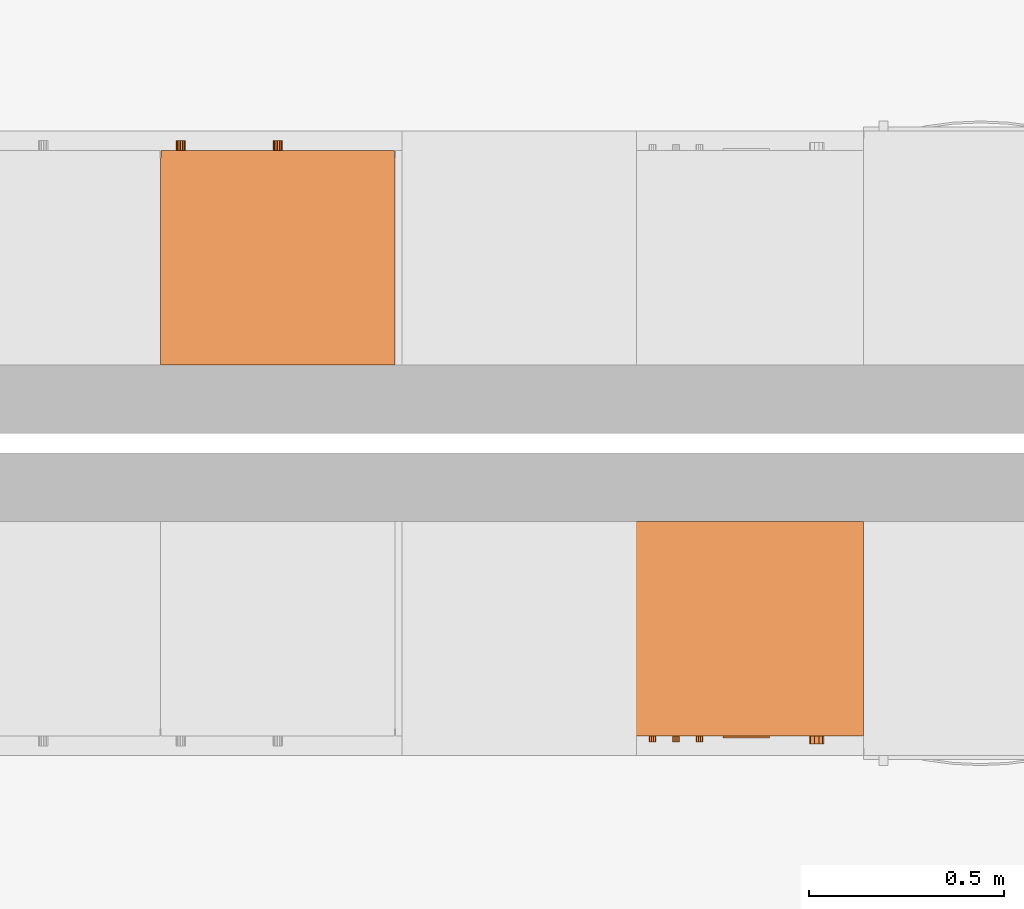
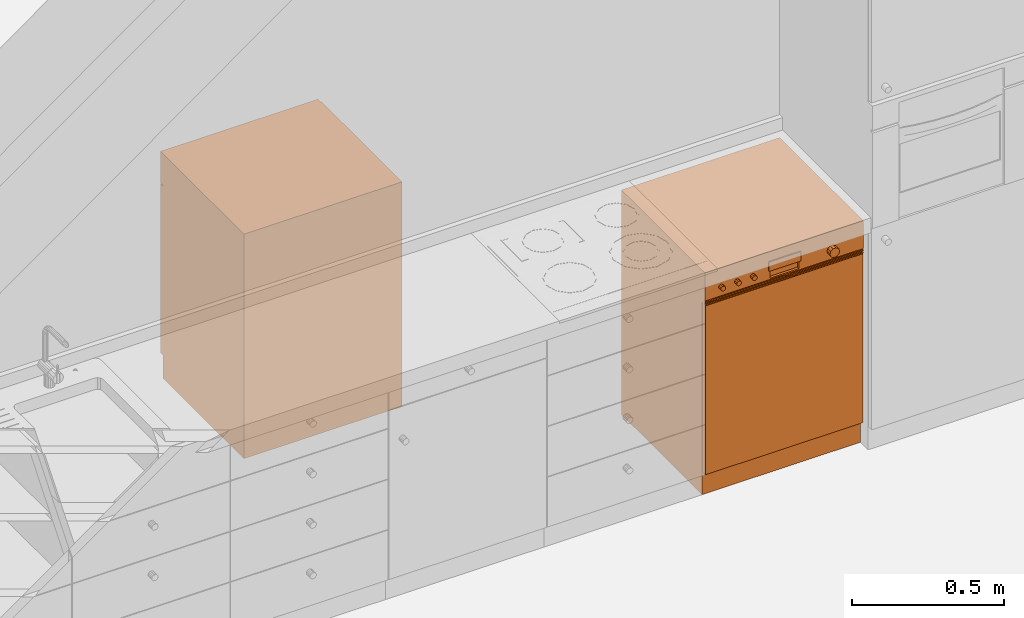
# One storey, part 20 of 28: 2 proxies.
"""IFC4 building model written with IfcOpenShell, lengths in metres."""

import ifcopenshell
import ifcopenshell.guid

model = None  # the IFC model being written
_history = None  # IfcOwnerHistory: only IFC2X3 demands one
_inside = {}  # id of a spatial element -> (the spatial element, [elements in it])
_under = {}  # id of a project, library or spatial element -> (it, [spatial elements below it])
_declared = {}  # id of a project -> (the project, [libraries it declares])
_typed = {}  # id of a type object -> (the type object, [elements of that type])
_made_of = {}  # id of a material, layer set ... -> (it, [elements and type objects made of it])


def new_model(schema):
    """Start an empty IFC model of exactly this schema.

    Asked for "IFC4X3", IfcOpenShell would pick the latest addendum, in which some entities
    have other attributes; the version numbers below select the first issue.
    IFC2X3 requires an IfcOwnerHistory on every rooted entity: one is made here for all.
    """
    global model, _history
    if schema == "IFC4X3":
        model = ifcopenshell.file(schema_version=(4, 3, 0, 0))
    else:
        model = ifcopenshell.file(schema=schema)
    _inside.clear()
    _under.clear()
    _declared.clear()
    _typed.clear()
    _made_of.clear()
    _history = None
    if model.schema == "IFC2X3":
        org = make("IfcOrganization", Name="unknown")
        user = make(
            "IfcPersonAndOrganization",
            ThePerson=make("IfcPerson", FamilyName="unknown"),
            TheOrganization=org,
        )
        app = make(
            "IfcApplication",
            ApplicationDeveloper=org,
            Version="unknown",
            ApplicationFullName="unknown",
            ApplicationIdentifier="unknown",
        )
        _history = make(
            "IfcOwnerHistory",
            OwningUser=user,
            OwningApplication=app,
            ChangeAction="ADDED",
            CreationDate=0,
        )
    return model


def make(cls, **values):
    """One entity of the class cls with the attributes given. An attribute that is None is left unset."""
    return model.create_entity(
        cls, **{name: value for name, value in values.items() if value is not None}
    )


def entity(cls, *values):
    """Any entity or typed value of the class cls, its attributes in the order of the schema. None: left unset."""
    e = model.create_entity(cls)
    for i, value in enumerate(values):
        if value is not None:
            e[i] = value
    return e


def rooted(cls, **values):
    """An entity with a GlobalId (a new one), such as an element, a storey or a relation."""
    return make(cls, GlobalId=ifcopenshell.guid.new(), OwnerHistory=_history, **values)


def si_unit(unit_type, name, prefix=None):
    """IfcSIUnit, for example si_unit("LENGTHUNIT", "METRE", prefix="MILLI")."""
    return make("IfcSIUnit", UnitType=unit_type, Prefix=prefix, Name=name)


def converted_unit(unit_type, name, factor, base, dimensions=None, offset=None):
    """IfcConversionBasedUnit, such as the inch: factor (a typed value) times the base unit."""
    return make(
        "IfcConversionBasedUnit"
        if offset is None
        else "IfcConversionBasedUnitWithOffset",
        ConversionOffset=offset,
        Dimensions=None
        if dimensions is None
        else entity("IfcDimensionalExponents", *dimensions),
        UnitType=unit_type,
        Name=name,
        ConversionFactor=make(
            "IfcMeasureWithUnit", ValueComponent=factor, UnitComponent=base
        ),
    )


def derived_unit(unit_type, elements):
    """IfcDerivedUnit: a product of units, each with its exponent."""
    return make(
        "IfcDerivedUnit",
        Elements=[
            make("IfcDerivedUnitElement", Unit=unit, Exponent=power)
            for unit, power in elements
        ],
        UnitType=unit_type,
    )


def assignment(units):
    """IfcUnitAssignment: the units of a project."""
    return None if units is None else make("IfcUnitAssignment", Units=units)


def point(xyz):
    """IfcCartesianPoint."""
    return None if xyz is None else make("IfcCartesianPoint", Coordinates=xyz)


def direction(xyz):
    """IfcDirection."""
    return None if xyz is None else make("IfcDirection", DirectionRatios=xyz)


def frame(location, z_axis=None, x_axis=None):
    """IfcAxis2Placement3D, a coordinate frame: its origin and axes. An axis left out is left unset."""
    return make(
        "IfcAxis2Placement3D",
        Location=point(location),
        Axis=direction(z_axis),
        RefDirection=direction(x_axis),
    )


def origin_with_axes():
    """The frame at (0, 0, 0) with the z axis (0, 0, 1) and the x axis (1, 0, 0) written out."""
    return frame((0.0, 0.0, 0.0), z_axis=(0.0, 0.0, 1.0), x_axis=(1.0, 0.0, 0.0))


def place(relative_to, where):
    """IfcLocalPlacement: puts the frame where relative to a parent placement (None: the world)."""
    return make(
        "IfcLocalPlacement", PlacementRelTo=relative_to, RelativePlacement=where
    )


def context(
    kind, dimensions, precision=None, world=None, true_north=None, identifier=None
):
    """IfcGeometricRepresentationContext, for example the 3D "Model" context."""
    return make(
        "IfcGeometricRepresentationContext",
        ContextIdentifier=identifier,
        ContextType=kind,
        CoordinateSpaceDimension=dimensions,
        Precision=precision,
        WorldCoordinateSystem=world,
        TrueNorth=true_north,
    )


def subcontext(parent, identifier, kind, view, scale=None):
    """IfcGeometricRepresentationSubContext, for example "Body" below "Model"."""
    return make(
        "IfcGeometricRepresentationSubContext",
        ContextIdentifier=identifier,
        ContextType=kind,
        ParentContext=parent,
        TargetScale=scale,
        TargetView=view,
    )


def project(units=None, contexts=None):
    """IfcProject with its units and contexts."""
    return rooted(
        "IfcProject",
        Name="project",
        RepresentationContexts=contexts,
        UnitsInContext=assignment(units),
    )


def spatial(cls, under=None, at=None, **own):
    """A site, building, storey or space (cls), placed at a placement, below another one or the project."""
    s = rooted(cls, ObjectPlacement=at, **own)
    if under is not None:
        _under.setdefault(under.id(), (under, []))[1].append(s)
    return s


def point_list(points):
    """IfcCartesianPointList2D or 3D."""
    cls = (
        "IfcCartesianPointList2D" if len(points[0]) == 2 else "IfcCartesianPointList3D"
    )
    return make(cls, CoordList=points)


def triangles(points, corners, closed=None, point_numbers=None):
    """IfcTriangulatedFaceSet: each triangle names its three corners, points numbered from 1."""
    return make(
        "IfcTriangulatedFaceSet",
        Coordinates=point_list(points),
        Closed=closed,
        CoordIndex=corners,
        PnIndex=point_numbers,
    )


def shape(context_of_items, identifier, shape_type, items):
    """IfcShapeRepresentation: the items that make up one representation, for example the "Body"."""
    return make(
        "IfcShapeRepresentation",
        ContextOfItems=context_of_items,
        RepresentationIdentifier=identifier,
        RepresentationType=shape_type,
        Items=items,
    )


def made_of(thing, what):
    """Note that an element or type object is made of a material, layer set ...; save() writes the relation."""
    if what is not None:
        _made_of.setdefault(what.id(), (what, []))[1].append(thing)
    return thing


def type_object(cls, material=None, **own):
    """A type object (cls), such as IfcWallType, which elements share."""
    return made_of(rooted(cls, **own), material)


def element(
    cls,
    number,
    at=None,
    inside=None,
    cuts=None,
    type_object=None,
    material=None,
    context=None,
    identifier="Body",
    shape_type=None,
    held_by="IfcProductDefinitionShape",
    body=None,
    shapes=None,
    **own,
):
    """One element of the class cls, such as IfcWall. Its Tag is "e" and its number.

    at: its placement. inside: the storey or other place that contains it. cuts: it is an
    opening in that element (IfcRelVoidsElement). A single representation is given by context,
    identifier, shape_type and body (its items); several are given by shapes. held_by: the class
    of the entity that holds the representations. save() writes the other relations.
    """
    e = rooted(cls, Tag="e%d" % number, ObjectPlacement=at, **own)
    if body is not None:
        shapes = [shape(context, identifier, shape_type, body)]
    if shapes is not None:
        e.Representation = make(held_by, Representations=shapes)
    if inside is not None:
        _inside.setdefault(inside.id(), (inside, []))[1].append(e)
    if cuts is not None:
        rooted(
            "IfcRelVoidsElement", RelatingBuildingElement=cuts, RelatedOpeningElement=e
        )
    if type_object is not None:
        _typed.setdefault(type_object.id(), (type_object, []))[1].append(e)
    return made_of(e, material)


def aggregate(whole, parts):
    """IfcRelAggregates: a whole, such as a stair, and the parts it consists of."""
    return rooted("IfcRelAggregates", RelatingObject=whole, RelatedObjects=parts)


def save(model, path):
    """Write the relations noted so far, then the file.

    IfcRelAggregates (storeys below a building ...), IfcRelContainedInSpatialStructure (elements
    in a storey), IfcRelDefinesByType, IfcRelAssociatesMaterial and IfcRelDeclares: one each for
    every whole, place, type object, material and project.
    """
    for whole, parts in _under.values():
        aggregate(whole, parts)
    for where, things in _inside.values():
        rooted(
            "IfcRelContainedInSpatialStructure",
            RelatedElements=things,
            RelatingStructure=where,
        )
    for kind, things in _typed.values():
        rooted("IfcRelDefinesByType", RelatedObjects=things, RelatingType=kind)
    for what, things in _made_of.values():
        rooted("IfcRelAssociatesMaterial", RelatedObjects=things, RelatingMaterial=what)
    for by, libraries in _declared.values():
        rooted("IfcRelDeclares", RelatingContext=by, RelatedDefinitions=libraries)
    model.write(path)


model = new_model("IFC4")

# Units and contexts
model_context = context("Model", 3, precision=1e-05, world=origin_with_axes(), true_north=direction((-0.526213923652, 0.850352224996)))
body_context = subcontext(model_context, "Body", "Model", "MODEL_VIEW")
ifc_project = project(units=[si_unit("LENGTHUNIT", "METRE"), si_unit("AREAUNIT", "SQUARE_METRE"), si_unit("VOLUMEUNIT", "CUBIC_METRE"), converted_unit("PLANEANGLEUNIT", "DEGREE", entity("IfcPlaneAngleMeasure", 0.0174532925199), si_unit("PLANEANGLEUNIT", "RADIAN"), dimensions=[0, 0, 0, 0, 0, 0, 0]), si_unit("SOLIDANGLEUNIT", "STERADIAN"), converted_unit("TIMEUNIT", "Year", entity("IfcTimeMeasure", 31556926.0), si_unit("TIMEUNIT", "SECOND"), dimensions=[0, 0, 1, 0, 0, 0, 0]), si_unit("MASSUNIT", "GRAM", prefix="KILO"), si_unit("THERMODYNAMICTEMPERATUREUNIT", "DEGREE_CELSIUS"), si_unit("LUMINOUSINTENSITYUNIT", "LUMEN"), si_unit("ENERGYUNIT", "JOULE", prefix="MEGA"), derived_unit("THERMALCONDUCTANCEUNIT", [(si_unit("POWERUNIT", "WATT"), 1), (si_unit("LENGTHUNIT", "METRE"), -1), (si_unit("THERMODYNAMICTEMPERATUREUNIT", "KELVIN"), -1)]), derived_unit("SPECIFICHEATCAPACITYUNIT", [(si_unit("ENERGYUNIT", "JOULE"), 1), (si_unit("MASSUNIT", "GRAM", prefix="KILO"), -1), (si_unit("THERMODYNAMICTEMPERATUREUNIT", "KELVIN"), -1)]), derived_unit("MASSDENSITYUNIT", [(si_unit("MASSUNIT", "GRAM", prefix="KILO"), 1), (si_unit("VOLUMEUNIT", "CUBIC_METRE"), -1)])], contexts=[model_context])

# Site, building, storey, space
site_placement = place(None, origin_with_axes())
site = spatial("IfcSite", under=ifc_project, at=site_placement, Name="Gelände", CompositionType="ELEMENT")
building_placement = place(site_placement, origin_with_axes())
building = spatial("IfcBuilding", under=site, at=building_placement, Name="Haus vom Nikolaus", CompositionType="ELEMENT")
storey_placement = place(building_placement, origin_with_axes())
storey = spatial("IfcBuildingStorey", under=building, at=storey_placement, Name="EG", CompositionType="ELEMENT", Elevation=0.0)
space_placement = place(storey_placement, frame((-3.09538684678, 5.36483190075, 0.0), z_axis=(0.0, 0.0, 1.0), x_axis=(1.0, 0.0, 0.0)))
space = spatial("IfcSpace", under=storey, at=space_placement, Name="EG", CompositionType="ELEMENT")

# Proxies
building_element_proxy_type_1 = type_object("IfcBuildingElementProxyType", Name="Unterschrank Einzeltür mit Spüle 22", PredefinedType="NOTDEFINED")
proxy_1_placement = place(space_placement, frame((11.7603844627, 2.87500017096, 0.2), z_axis=(0.0, 0.0, 1.0), x_axis=(-1.0, 0.0, 0.0)))
element("IfcBuildingElementProxy", 1, at=proxy_1_placement, inside=space, type_object=building_element_proxy_type_1, Name="Küche-004", PredefinedType="NOTDEFINED", context=body_context, shape_type="Tessellation", body=[
    triangles([(0.58, 0.07, 0.78), (0.02, 0.07, 0.76), (0.58, 0.07, 0.76), (0.02, 0.07, 0.78), (0.58, 0.58, 0.76), (0.02, 0.58, 0.76), (0.58, 0.58, 0.78), (0.02, 0.58, 0.78)], [[1, 2, 3], [1, 4, 2], [5, 2, 6], [5, 3, 2], [7, 3, 5], [7, 1, 3], [7, 4, 1], [7, 8, 4], [4, 6, 2], [4, 8, 6], [8, 5, 6], [8, 7, 5]], closed=True),
    triangles([(0.6, 0.07, 0.09), (0.0, 0.07, 0.0), (0.6, 0.07, 0.0), (0.0, 0.07, 0.09), (0.6, 0.6, 0.0), (0.0, 0.6, 0.0), (0.6, 0.6, 0.09), (0.0, 0.6, 0.09)], [[1, 2, 3], [1, 4, 2], [5, 2, 6], [5, 3, 2], [7, 3, 5], [7, 1, 3], [7, 4, 1], [7, 8, 4], [4, 6, 2], [4, 8, 6], [8, 5, 6], [8, 7, 5]], closed=True),
    triangles([(0.02, 0.07, 0.9), (0.0, 0.07, 0.88), (0.02, 0.07, 0.88), (0.0, 0.07, 0.9), (0.02, 0.6, 0.88), (0.58, 0.07, 0.88), (0.58, 0.6, 0.88), (0.0, 0.6, 0.88), (0.6, 0.07, 0.88), (0.6, 0.6, 0.88), (0.58, 0.07, 0.9), (0.0, 0.6, 0.9), (0.02, 0.6, 0.9), (0.58, 0.6, 0.9), (0.6, 0.6, 0.9), (0.6, 0.07, 0.9)], [[1, 2, 3], [1, 4, 2], [3, 2, 5], [6, 5, 7], [5, 2, 8], [9, 7, 10], [6, 7, 9], [3, 5, 6], [11, 3, 6], [11, 1, 3], [12, 4, 13], [14, 11, 15], [11, 14, 1], [15, 11, 16], [1, 13, 4], [13, 1, 14], [4, 8, 2], [4, 12, 8], [12, 5, 8], [12, 13, 5], [13, 7, 5], [13, 14, 7], [14, 10, 7], [14, 15, 10], [15, 9, 10], [15, 16, 9], [16, 6, 9], [16, 11, 6]], closed=True),
    triangles([(0.02, 0.07, 0.11), (0.0, 0.07, 0.09), (0.02, 0.07, 0.09), (0.0, 0.07, 0.11), (0.02, 0.6, 0.09), (0.58, 0.07, 0.09), (0.58, 0.6, 0.09), (0.0, 0.6, 0.09), (0.6, 0.07, 0.09), (0.6, 0.6, 0.09), (0.58, 0.07, 0.11), (0.0, 0.6, 0.11), (0.02, 0.6, 0.11), (0.58, 0.6, 0.11), (0.6, 0.6, 0.11), (0.6, 0.07, 0.11)], [[1, 2, 3], [1, 4, 2], [3, 2, 5], [6, 5, 7], [5, 2, 8], [9, 7, 10], [6, 7, 9], [3, 5, 6], [11, 3, 6], [11, 1, 3], [12, 4, 13], [14, 11, 15], [11, 14, 1], [15, 11, 16], [1, 13, 4], [13, 1, 14], [4, 8, 2], [4, 12, 8], [12, 5, 8], [12, 13, 5], [13, 7, 5], [13, 14, 7], [14, 10, 7], [14, 15, 10], [15, 9, 10], [15, 16, 9], [16, 6, 9], [16, 11, 6]], closed=True),
    triangles([(0.02, 0.07, 0.88), (0.0, 0.07, 0.11), (0.02, 0.07, 0.11), (0.0, 0.07, 0.88), (0.02, 0.58, 0.11), (0.58, 0.58, 0.11), (0.6, 0.07, 0.11), (0.58, 0.07, 0.11), (0.0, 0.6, 0.11), (0.6, 0.6, 0.11), (0.02, 0.58, 0.88), (0.0, 0.6, 0.88), (0.6, 0.6, 0.88), (0.58, 0.58, 0.88), (0.6, 0.07, 0.88), (0.58, 0.07, 0.88)], [[1, 2, 3], [1, 4, 2], [3, 2, 5], [6, 7, 8], [6, 9, 10], [7, 6, 10], [5, 2, 9], [6, 5, 9], [11, 3, 5], [11, 1, 3], [12, 4, 11], [13, 12, 11], [11, 4, 1], [13, 11, 14], [15, 13, 14], [15, 14, 16], [4, 9, 2], [4, 12, 9], [12, 10, 9], [12, 13, 10], [13, 7, 10], [13, 15, 7], [15, 8, 7], [15, 16, 8], [16, 6, 8], [16, 14, 6], [14, 5, 6], [14, 11, 5]], closed=True),
    triangles([(0.58, 0.58, 0.43), (0.58, 0.07, 0.41), (0.58, 0.58, 0.41), (0.58, 0.07, 0.43), (0.02, 0.58, 0.41), (0.02, 0.07, 0.41), (0.02, 0.58, 0.43), (0.02, 0.07, 0.43)], [[1, 2, 3], [1, 4, 2], [5, 2, 6], [5, 3, 2], [7, 3, 5], [7, 1, 3], [7, 4, 1], [7, 8, 4], [4, 6, 2], [4, 8, 6], [8, 5, 6], [8, 7, 5]], closed=True),
    triangles([(0.5985, 0.05, 0.7715), (0.0015, 0.07, 0.7715), (0.5985, 0.07, 0.7715), (0.0015, 0.05, 0.7715), (0.5985, 0.07, 0.8985), (0.0015, 0.07, 0.8985), (0.5985, 0.05, 0.8985), (0.0015, 0.05, 0.8985)], [[1, 2, 3], [1, 4, 2], [5, 2, 6], [5, 3, 2], [7, 3, 5], [7, 1, 3], [7, 4, 1], [7, 8, 4], [4, 6, 2], [4, 8, 6], [8, 5, 6], [8, 7, 5]], closed=True),
    triangles([(0.288, 0.05, 0.835), (0.304592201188, 0.05, 0.84608655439), (0.295407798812, 0.05, 0.82391344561), (0.291514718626, 0.05, 0.826514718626), (0.28891344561, 0.05, 0.830407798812), (0.291514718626, 0.05, 0.843485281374), (0.28891344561, 0.05, 0.839592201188), (0.295407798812, 0.05, 0.84608655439), (0.31108655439, 0.05, 0.839592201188), (0.308485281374, 0.05, 0.843485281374), (0.3, 0.05, 0.847), (0.31108655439, 0.05, 0.830407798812), (0.312, 0.05, 0.835), (0.304592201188, 0.05, 0.82391344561), (0.308485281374, 0.05, 0.826514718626), (0.3, 0.05, 0.823), (0.295407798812, 0.025, 0.82391344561), (0.291514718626, 0.025, 0.826514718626), (0.28891344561, 0.025, 0.830407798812), (0.288, 0.025, 0.835), (0.28891344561, 0.025, 0.839592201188), (0.291514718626, 0.025, 0.843485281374), (0.295407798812, 0.025, 0.84608655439), (0.3, 0.025, 0.847), (0.304592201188, 0.025, 0.84608655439), (0.308485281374, 0.025, 0.843485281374), (0.31108655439, 0.025, 0.839592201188), (0.312, 0.025, 0.835), (0.31108655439, 0.025, 0.830407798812), (0.308485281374, 0.025, 0.826514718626), (0.304592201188, 0.025, 0.82391344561), (0.3, 0.025, 0.823)], [[1, 2, 3], [4, 1, 3], [1, 4, 5], [6, 1, 7], [8, 1, 6], [2, 1, 8], [9, 2, 10], [2, 8, 11], [2, 9, 3], [12, 9, 13], [14, 12, 15], [9, 12, 3], [12, 14, 3], [16, 3, 14], [17, 4, 3], [17, 18, 4], [18, 5, 4], [18, 19, 5], [19, 1, 5], [19, 20, 1], [20, 7, 1], [20, 21, 7], [21, 6, 7], [21, 22, 6], [22, 8, 6], [22, 23, 8], [23, 11, 8], [23, 24, 11], [24, 2, 11], [24, 25, 2], [25, 10, 2], [25, 26, 10], [26, 9, 10], [26, 27, 9], [27, 13, 9], [27, 28, 13], [28, 12, 13], [28, 29, 12], [29, 15, 12], [29, 30, 15], [31, 15, 30], [15, 31, 14], [32, 14, 31], [14, 32, 16], [32, 3, 16], [32, 17, 3], [23, 31, 25], [29, 31, 30], [31, 17, 32], [28, 25, 29], [27, 25, 28], [25, 27, 26], [23, 25, 24], [29, 25, 31], [31, 23, 17], [21, 23, 22], [18, 23, 20], [20, 23, 21], [18, 20, 19], [23, 18, 17]], closed=True),
    triangles([(0.5985, 0.05, 0.0915), (0.0015, 0.07, 0.0915), (0.5985, 0.07, 0.0915), (0.0015, 0.05, 0.0915), (0.5985, 0.07, 0.7685), (0.0015, 0.07, 0.7685), (0.5985, 0.05, 0.7685), (0.0015, 0.05, 0.7685)], [[1, 2, 3], [1, 4, 2], [5, 2, 6], [5, 3, 2], [7, 3, 5], [7, 1, 3], [7, 4, 1], [7, 8, 4], [4, 6, 2], [4, 8, 6], [8, 5, 6], [8, 7, 5]], closed=True),
    triangles([(0.540014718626, 0.05, 0.633014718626), (0.540014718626, 0.05, 0.649985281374), (0.553092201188, 0.05, 0.63041344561), (0.543907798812, 0.05, 0.63041344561), (0.5485, 0.05, 0.6295), (0.55958655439, 0.05, 0.636907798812), (0.556985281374, 0.05, 0.633014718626), (0.53741344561, 0.05, 0.636907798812), (0.5365, 0.05, 0.6415), (0.53741344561, 0.05, 0.646092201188), (0.553092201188, 0.05, 0.65258655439), (0.5485, 0.05, 0.6535), (0.543907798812, 0.05, 0.65258655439), (0.556985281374, 0.05, 0.649985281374), (0.55958655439, 0.05, 0.646092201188), (0.5605, 0.05, 0.6415), (0.55958655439, 0.025, 0.636907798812), (0.556985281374, 0.025, 0.633014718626), (0.553092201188, 0.025, 0.63041344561), (0.5485, 0.025, 0.6295), (0.543907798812, 0.025, 0.63041344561), (0.540014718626, 0.025, 0.633014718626), (0.53741344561, 0.025, 0.636907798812), (0.5365, 0.025, 0.6415), (0.53741344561, 0.025, 0.646092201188), (0.540014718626, 0.025, 0.649985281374), (0.543907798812, 0.025, 0.65258655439), (0.5485, 0.025, 0.6535), (0.553092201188, 0.025, 0.65258655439), (0.556985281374, 0.025, 0.649985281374), (0.55958655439, 0.025, 0.646092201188), (0.5605, 0.025, 0.6415)], [[1, 2, 3], [4, 3, 5], [3, 6, 7], [1, 3, 4], [2, 8, 9], [2, 9, 10], [11, 2, 12], [8, 2, 1], [12, 2, 13], [14, 2, 11], [15, 3, 14], [2, 14, 3], [3, 15, 6], [16, 6, 15], [17, 7, 6], [17, 18, 7], [18, 3, 7], [18, 19, 3], [19, 5, 3], [19, 20, 5], [20, 4, 5], [20, 21, 4], [21, 1, 4], [21, 22, 1], [22, 8, 1], [22, 23, 8], [23, 9, 8], [23, 24, 9], [24, 10, 9], [24, 25, 10], [25, 2, 10], [25, 26, 2], [26, 13, 2], [26, 27, 13], [27, 12, 13], [27, 28, 12], [28, 11, 12], [28, 29, 11], [29, 14, 11], [29, 30, 14], [30, 15, 14], [30, 31, 15], [31, 16, 15], [31, 32, 16], [32, 6, 16], [32, 17, 6], [23, 26, 25], [23, 18, 30], [18, 32, 31], [28, 30, 29], [26, 30, 28], [26, 28, 27], [23, 25, 24], [23, 30, 26], [18, 23, 19], [19, 23, 22], [19, 21, 20], [19, 22, 21], [30, 18, 31], [32, 18, 17]], closed=True),
])
building_element_proxy_type_2 = type_object("IfcBuildingElementProxyType", Name="Unterschrank Spülmaschine 22", PredefinedType="NOTDEFINED")
proxy_2_placement = place(space_placement, frame((12.9603844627, 1.27500017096, 0.2), z_axis=(0.0, 0.0, 1.0), x_axis=(1.0, 0.0, 0.0)))
element("IfcBuildingElementProxy", 2, at=proxy_2_placement, inside=space, type_object=building_element_proxy_type_2, Name="Küche-007", PredefinedType="NOTDEFINED", context=body_context, shape_type="Tessellation", body=[
    triangles([(-0.6, 0.07, 0.09), (0.0, 0.07, 0.0), (0.0, 0.07, 0.09), (-0.6, 0.07, 0.0), (0.0, 0.6, 0.0), (0.0, 0.6, 0.09), (-0.6, 0.6, 0.09), (-0.6, 0.6, 0.0)], [[1, 2, 3], [1, 4, 2], [3, 5, 6], [3, 2, 5], [7, 3, 6], [7, 1, 3], [7, 4, 1], [7, 8, 4], [8, 2, 4], [8, 5, 2], [6, 8, 7], [6, 5, 8]], closed=True),
    triangles([(-0.02, 0.07, 0.9), (0.0, 0.07, 0.88), (0.0, 0.07, 0.9), (-0.02, 0.07, 0.88), (0.0, 0.6, 0.88), (0.0, 0.6, 0.9), (-0.02, 0.6, 0.9), (-0.58, 0.07, 0.9), (-0.58, 0.6, 0.9), (-0.6, 0.07, 0.9), (-0.6, 0.6, 0.9), (-0.58, 0.07, 0.88), (-0.02, 0.6, 0.88), (-0.58, 0.6, 0.88), (-0.6, 0.6, 0.88), (-0.6, 0.07, 0.88)], [[1, 2, 3], [1, 4, 2], [3, 5, 6], [3, 2, 5], [1, 3, 7], [8, 7, 9], [7, 3, 6], [10, 9, 11], [8, 9, 10], [1, 7, 8], [8, 4, 1], [8, 12, 4], [5, 2, 13], [14, 12, 15], [12, 14, 4], [15, 12, 16], [4, 13, 2], [13, 4, 14], [6, 13, 7], [6, 5, 13], [7, 14, 9], [7, 13, 14], [9, 15, 11], [9, 14, 15], [11, 16, 10], [11, 15, 16], [10, 12, 8], [10, 16, 12]], closed=True),
    triangles([(-0.02, 0.07, 0.11), (0.0, 0.07, 0.09), (0.0, 0.07, 0.11), (-0.02, 0.07, 0.09), (0.0, 0.6, 0.09), (0.0, 0.6, 0.11), (-0.02, 0.6, 0.11), (-0.58, 0.07, 0.11), (-0.58, 0.6, 0.11), (-0.6, 0.07, 0.11), (-0.6, 0.6, 0.11), (-0.58, 0.07, 0.09), (-0.02, 0.6, 0.09), (-0.58, 0.6, 0.09), (-0.6, 0.6, 0.09), (-0.6, 0.07, 0.09)], [[1, 2, 3], [1, 4, 2], [3, 5, 6], [3, 2, 5], [1, 3, 7], [8, 7, 9], [7, 3, 6], [10, 9, 11], [8, 9, 10], [1, 7, 8], [8, 4, 1], [8, 12, 4], [5, 2, 13], [14, 12, 15], [12, 14, 4], [15, 12, 16], [4, 13, 2], [13, 4, 14], [6, 13, 7], [6, 5, 13], [7, 14, 9], [7, 13, 14], [9, 15, 11], [9, 14, 15], [11, 16, 10], [11, 15, 16], [10, 12, 8], [10, 16, 12]], closed=True),
    triangles([(-0.02, 0.07, 0.88), (0.0, 0.07, 0.11), (0.0, 0.07, 0.88), (-0.02, 0.07, 0.11), (0.0, 0.6, 0.11), (0.0, 0.6, 0.88), (-0.02, 0.58, 0.88), (-0.58, 0.58, 0.88), (-0.6, 0.07, 0.88), (-0.58, 0.07, 0.88), (-0.6, 0.6, 0.88), (-0.02, 0.58, 0.11), (-0.6, 0.6, 0.11), (-0.58, 0.58, 0.11), (-0.6, 0.07, 0.11), (-0.58, 0.07, 0.11)], [[1, 2, 3], [1, 4, 2], [3, 5, 6], [3, 2, 5], [1, 3, 7], [8, 9, 10], [8, 6, 11], [9, 8, 11], [7, 3, 6], [8, 7, 6], [7, 4, 1], [7, 12, 4], [5, 2, 12], [13, 5, 12], [12, 2, 4], [13, 12, 14], [15, 13, 14], [15, 14, 16], [6, 13, 11], [6, 5, 13], [11, 15, 9], [11, 13, 15], [9, 16, 10], [9, 15, 16], [10, 14, 8], [10, 16, 14], [8, 12, 7], [8, 14, 12]], closed=True),
    triangles([(-0.6, 0.05, 0.788571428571), (0.0, 0.07, 0.788571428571), (0.0, 0.05, 0.788571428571), (-0.6, 0.07, 0.788571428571), (0.0, 0.07, 0.9), (0.0, 0.05, 0.9), (-0.36, 0.05, 0.862857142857), (-0.24, 0.05, 0.862857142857), (-0.6, 0.05, 0.9), (-0.24, 0.05, 0.788571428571), (-0.36, 0.05, 0.788571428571), (-0.6, 0.07, 0.9), (-0.24, 0.07, 0.862857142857), (-0.36, 0.07, 0.862857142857), (-0.36, 0.07, 0.788571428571), (-0.24, 0.07, 0.788571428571)], [[1, 2, 3], [1, 4, 2], [3, 5, 6], [3, 2, 5], [7, 8, 6], [7, 6, 9], [6, 8, 10], [11, 7, 9], [3, 6, 10], [3, 10, 1], [1, 10, 11], [1, 11, 9], [9, 4, 1], [9, 12, 4], [13, 14, 12], [13, 12, 5], [12, 14, 15], [16, 13, 5], [4, 12, 15], [4, 15, 2], [2, 15, 16], [2, 16, 5], [6, 12, 9], [6, 5, 12], [10, 15, 11], [10, 16, 15], [15, 7, 11], [7, 15, 14], [7, 13, 8], [7, 14, 13], [8, 16, 10], [8, 13, 16]], closed=True),
    triangles([(-0.6, 0.055, 0.77), (0.0, 0.07, 0.77), (0.0, 0.055, 0.77), (-0.6, 0.07, 0.77), (0.0, 0.07, 0.788571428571), (0.0, 0.055, 0.788571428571), (-0.6, 0.055, 0.788571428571), (-0.6, 0.07, 0.788571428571)], [[1, 2, 3], [1, 4, 2], [3, 5, 6], [3, 2, 5], [7, 3, 6], [7, 1, 3], [7, 4, 1], [7, 8, 4], [8, 2, 4], [8, 5, 2], [6, 8, 7], [6, 5, 8]], closed=True),
    triangles([(-0.6, 0.05, 0.77), (0.0, 0.055, 0.77), (0.0, 0.05, 0.77), (-0.6, 0.055, 0.77), (0.0, 0.055, 0.774642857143), (0.0, 0.05, 0.774642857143), (-0.6, 0.05, 0.774642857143), (-0.6, 0.055, 0.774642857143)], [[1, 2, 3], [1, 4, 2], [3, 5, 6], [3, 2, 5], [7, 3, 6], [7, 1, 3], [7, 4, 1], [7, 8, 4], [8, 2, 4], [8, 5, 2], [6, 8, 7], [6, 5, 8]], closed=True),
    triangles([(-0.6, 0.05, 0.779285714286), (0.0, 0.055, 0.779285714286), (0.0, 0.05, 0.779285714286), (-0.6, 0.055, 0.779285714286), (0.0, 0.055, 0.783928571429), (0.0, 0.05, 0.783928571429), (-0.6, 0.05, 0.783928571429), (-0.6, 0.055, 0.783928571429)], [[1, 2, 3], [1, 4, 2], [3, 5, 6], [3, 2, 5], [7, 3, 6], [7, 1, 3], [7, 4, 1], [7, 8, 4], [8, 2, 4], [8, 5, 2], [6, 8, 7], [6, 5, 8]], closed=True),
    triangles([(-0.36, 0.06, 0.788571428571), (-0.24, 0.07, 0.788571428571), (-0.24, 0.06, 0.788571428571), (-0.36, 0.07, 0.788571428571), (-0.24, 0.07, 0.862857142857), (-0.24, 0.06, 0.862857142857), (-0.36, 0.06, 0.862857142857), (-0.36, 0.07, 0.862857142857)], [[1, 2, 3], [1, 4, 2], [3, 5, 6], [3, 2, 5], [7, 3, 6], [7, 1, 3], [7, 4, 1], [7, 8, 4], [8, 2, 4], [8, 5, 2], [6, 8, 7], [6, 5, 8]], closed=True),
    triangles([(-0.36, 0.05, 0.788571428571), (-0.24, 0.06, 0.788571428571), (-0.24, 0.05, 0.788571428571), (-0.36, 0.06, 0.788571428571), (-0.24, 0.05, 0.862857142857), (-0.24, 0.06, 0.862857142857), (-0.245, 0.05, 0.793571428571), (-0.355, 0.05, 0.857857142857), (-0.36, 0.05, 0.862857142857), (-0.355, 0.05, 0.793571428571), (-0.245, 0.05, 0.857857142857), (-0.36, 0.06, 0.862857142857), (-0.245, 0.06, 0.857857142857), (-0.355, 0.06, 0.857857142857), (-0.245, 0.06, 0.793571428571), (-0.355, 0.06, 0.793571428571)], [[1, 2, 3], [1, 4, 2], [2, 5, 3], [5, 2, 6], [7, 1, 3], [7, 3, 5], [8, 5, 9], [10, 9, 1], [7, 10, 1], [10, 8, 9], [11, 7, 5], [8, 11, 5], [9, 4, 1], [9, 12, 4], [13, 14, 12], [15, 6, 2], [4, 15, 2], [13, 12, 6], [15, 13, 6], [16, 4, 14], [12, 14, 4], [4, 16, 15], [5, 12, 9], [5, 6, 12], [7, 16, 10], [7, 15, 16], [16, 8, 10], [8, 16, 14], [8, 13, 11], [8, 14, 13], [11, 15, 7], [11, 13, 15]], closed=True),
    triangles([(-0.36, 0.045, 0.825714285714), (-0.24, 0.05, 0.825714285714), (-0.24, 0.045, 0.825714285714), (-0.36, 0.05, 0.825714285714), (-0.24, 0.045, 0.862857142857), (-0.24, 0.05, 0.862857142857), (-0.36, 0.045, 0.862857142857), (-0.36, 0.05, 0.862857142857)], [[1, 2, 3], [1, 4, 2], [2, 5, 3], [5, 2, 6], [7, 3, 5], [7, 1, 3], [7, 4, 1], [7, 8, 4], [8, 2, 4], [8, 6, 2], [5, 8, 7], [5, 6, 8]], closed=True),
    triangles([(-0.125738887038, 0.05, 0.808051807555), (-0.138571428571, 0.05, 0.825714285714), (-0.101428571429, 0.05, 0.825714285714), (-0.114261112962, 0.05, 0.843376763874), (-0.125738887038, 0.05, 0.843376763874), (-0.135024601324, 0.05, 0.836630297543), (-0.104975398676, 0.05, 0.836630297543), (-0.114261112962, 0.05, 0.808051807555), (-0.104975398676, 0.05, 0.814798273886), (-0.135024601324, 0.05, 0.814798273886), (-0.138571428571, 0.03, 0.825714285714), (-0.135024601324, 0.03, 0.814798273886), (-0.135024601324, 0.03, 0.836630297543), (-0.125738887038, 0.03, 0.843376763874), (-0.114261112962, 0.03, 0.843376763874), (-0.104975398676, 0.03, 0.836630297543), (-0.101428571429, 0.03, 0.825714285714), (-0.104975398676, 0.03, 0.814798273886), (-0.114261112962, 0.03, 0.808051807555), (-0.125738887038, 0.03, 0.808051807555)], [[1, 2, 3], [4, 2, 5], [5, 2, 6], [7, 2, 4], [8, 3, 9], [3, 2, 7], [2, 1, 10], [1, 3, 8], [11, 10, 12], [11, 2, 10], [13, 2, 11], [13, 6, 2], [14, 6, 13], [14, 5, 6], [15, 5, 14], [15, 4, 5], [16, 4, 15], [16, 7, 4], [17, 7, 16], [17, 3, 7], [18, 3, 17], [18, 9, 3], [19, 9, 18], [19, 8, 9], [20, 8, 19], [20, 1, 8], [12, 1, 20], [12, 10, 1], [17, 14, 20], [17, 20, 18], [18, 20, 19], [14, 17, 16], [11, 14, 13], [14, 16, 15], [20, 11, 12], [14, 11, 20]], closed=True),
    triangles([(-0.417130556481, 0.05, 0.816883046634), (-0.422869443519, 0.05, 0.834545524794), (-0.410714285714, 0.05, 0.825714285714), (-0.429285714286, 0.05, 0.825714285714), (-0.427512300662, 0.05, 0.8202562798), (-0.427512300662, 0.05, 0.831172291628), (-0.412487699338, 0.05, 0.831172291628), (-0.417130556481, 0.05, 0.834545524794), (-0.412487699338, 0.05, 0.8202562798), (-0.422869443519, 0.05, 0.816883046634), (-0.429285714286, 0.035, 0.825714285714), (-0.427512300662, 0.035, 0.8202562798), (-0.427512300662, 0.035, 0.831172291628), (-0.422869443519, 0.035, 0.834545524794), (-0.417130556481, 0.035, 0.834545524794), (-0.412487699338, 0.035, 0.831172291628), (-0.410714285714, 0.035, 0.825714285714), (-0.412487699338, 0.035, 0.8202562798), (-0.417130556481, 0.035, 0.816883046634), (-0.422869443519, 0.035, 0.816883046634)], [[1, 2, 3], [4, 2, 5], [2, 4, 6], [7, 2, 8], [1, 3, 9], [3, 2, 7], [10, 5, 1], [2, 1, 5], [11, 5, 12], [11, 4, 5], [13, 4, 11], [13, 6, 4], [14, 6, 13], [14, 2, 6], [15, 2, 14], [15, 8, 2], [16, 8, 15], [16, 7, 8], [17, 7, 16], [17, 3, 7], [18, 3, 17], [18, 9, 3], [19, 9, 18], [19, 1, 9], [20, 1, 19], [20, 10, 1], [12, 10, 20], [12, 5, 10], [14, 17, 15], [17, 20, 18], [18, 20, 19], [11, 20, 17], [11, 14, 13], [15, 17, 16], [20, 11, 12], [14, 11, 17]], closed=True),
    triangles([(-0.482869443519, 0.05, 0.816883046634), (-0.477130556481, 0.05, 0.834545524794), (-0.470714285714, 0.05, 0.825714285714), (-0.489285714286, 0.05, 0.825714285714), (-0.482869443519, 0.05, 0.834545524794), (-0.487512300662, 0.05, 0.8202562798), (-0.487512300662, 0.05, 0.831172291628), (-0.472487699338, 0.05, 0.8202562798), (-0.477130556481, 0.05, 0.816883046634), (-0.472487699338, 0.05, 0.831172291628), (-0.489285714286, 0.035, 0.825714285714), (-0.487512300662, 0.035, 0.8202562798), (-0.487512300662, 0.035, 0.831172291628), (-0.482869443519, 0.035, 0.834545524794), (-0.477130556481, 0.035, 0.834545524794), (-0.472487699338, 0.035, 0.831172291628), (-0.470714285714, 0.035, 0.825714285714), (-0.472487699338, 0.035, 0.8202562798), (-0.477130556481, 0.035, 0.816883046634), (-0.482869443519, 0.035, 0.816883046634)], [[1, 2, 3], [4, 5, 6], [5, 4, 7], [2, 6, 5], [1, 8, 9], [3, 2, 10], [2, 1, 6], [8, 1, 3], [11, 6, 12], [11, 4, 6], [13, 4, 11], [13, 7, 4], [14, 7, 13], [14, 5, 7], [15, 5, 14], [15, 2, 5], [16, 2, 15], [16, 10, 2], [17, 10, 16], [17, 3, 10], [18, 3, 17], [18, 8, 3], [19, 8, 18], [19, 9, 8], [20, 9, 19], [20, 1, 9], [12, 1, 20], [12, 6, 1], [14, 17, 15], [17, 20, 18], [18, 20, 19], [20, 17, 12], [17, 14, 12], [15, 17, 16], [14, 11, 12], [11, 14, 13]], closed=True),
    triangles([(-0.532487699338, 0.05, 0.8202562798), (-0.532487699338, 0.05, 0.831172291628), (-0.530714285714, 0.05, 0.825714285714), (-0.542869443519, 0.05, 0.834545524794), (-0.547512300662, 0.05, 0.8202562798), (-0.547512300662, 0.05, 0.831172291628), (-0.549285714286, 0.05, 0.825714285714), (-0.537130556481, 0.05, 0.834545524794), (-0.542869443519, 0.05, 0.816883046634), (-0.537130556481, 0.05, 0.816883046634), (-0.549285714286, 0.035, 0.825714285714), (-0.547512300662, 0.035, 0.8202562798), (-0.547512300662, 0.035, 0.831172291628), (-0.542869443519, 0.035, 0.834545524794), (-0.537130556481, 0.035, 0.834545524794), (-0.532487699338, 0.035, 0.831172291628), (-0.530714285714, 0.035, 0.825714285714), (-0.532487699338, 0.035, 0.8202562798), (-0.537130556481, 0.035, 0.816883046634), (-0.542869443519, 0.035, 0.816883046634)], [[1, 2, 3], [4, 5, 6], [6, 5, 7], [2, 4, 8], [9, 4, 1], [1, 4, 2], [4, 9, 5], [9, 1, 10], [11, 5, 12], [11, 7, 5], [13, 7, 11], [13, 6, 7], [14, 6, 13], [14, 4, 6], [15, 4, 14], [15, 8, 4], [16, 8, 15], [16, 2, 8], [17, 2, 16], [17, 3, 2], [18, 3, 17], [18, 1, 3], [19, 1, 18], [19, 10, 1], [20, 10, 19], [20, 9, 10], [12, 9, 20], [12, 5, 9], [16, 14, 18], [20, 18, 12], [18, 20, 19], [16, 18, 17], [18, 14, 12], [14, 16, 15], [14, 11, 12], [11, 14, 13]], closed=True),
    triangles([(-0.5985, 0.05, 0.0915), (-0.0015, 0.07, 0.0915), (-0.0015, 0.05, 0.0915), (-0.5985, 0.07, 0.0915), (-0.0015, 0.07, 0.7685), (-0.0015, 0.05, 0.7685), (-0.5985, 0.05, 0.7685), (-0.5985, 0.07, 0.7685)], [[1, 2, 3], [1, 4, 2], [3, 5, 6], [3, 2, 5], [7, 3, 6], [7, 1, 3], [7, 4, 1], [7, 8, 4], [8, 2, 4], [8, 5, 2], [6, 8, 7], [6, 5, 8]], closed=True),
])

save(model, "model.ifc")
